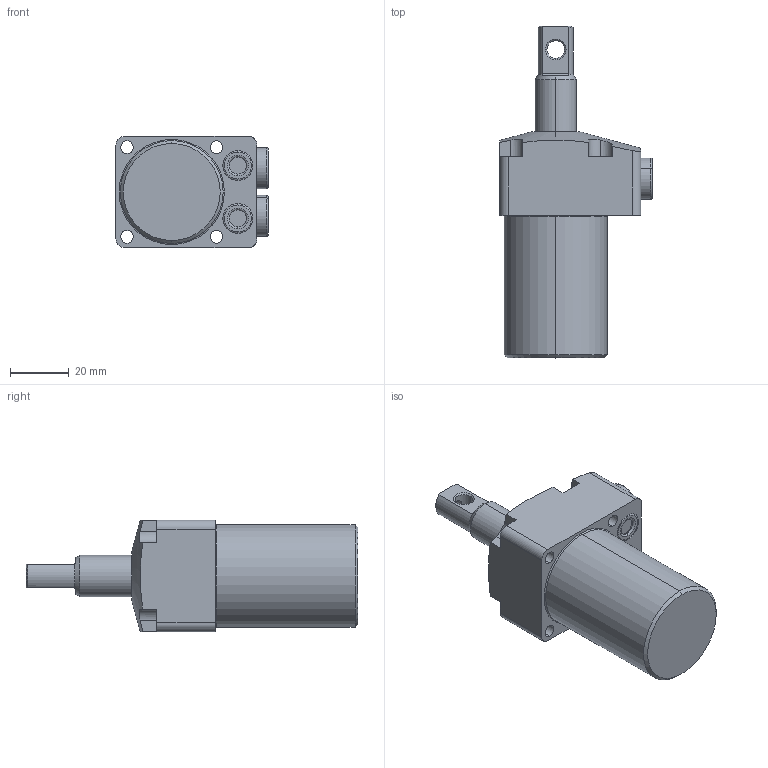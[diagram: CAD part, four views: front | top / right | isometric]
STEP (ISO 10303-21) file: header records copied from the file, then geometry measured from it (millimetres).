
FILE_DESCRIPTION(/* description */ (''),/* implementation_level */ '2;1');
FILE_NAME(/* name */ 'TRC01-P.stp',/* time_stamp */ '2025-01-04T09:14:37+08:00',/* author */ (''),/* organization */ (''),/* preprocessor_version */ 'ST-DEVELOPER v16.7',/* originating_system */ 'SIEMENS PLM Software NX 12.0',/* authorisation */ '');
FILE_SCHEMA (('AUTOMOTIVE_DESIGN { 1 0 10303 214 3 1 1 1 }'));
Length unit declared in the file: millimetre
Products named in the file (4): TRC01-P-01; TRC01-P-03; TRC01-P-02; TRC01-P_stp
Assembly tree (4 placements, depth 2):
  TRC01-P_stp
    TRC01-P-02
    TRC01-P-03  x2
    TRC01-P-01
Bounding box: 51.8 x 113 x 38 mm (x, y, z)
Volume: 93614.3 mm3; surface area: 19338.2 mm2
Topology: 6 solids, 6 shells, 171 faces, 389 edges, 242 vertices
Faces by surface type: cylinder 67, plane 56, cone 26, torus 22
Entity records: 4628 total; most frequent: CARTESIAN_POINT 1037, DIRECTION 781, ORIENTED_EDGE 686, EDGE_CURVE 343, AXIS2_PLACEMENT_3D 321, VERTEX_POINT 214, EDGE_LOOP 175, CIRCLE 167
